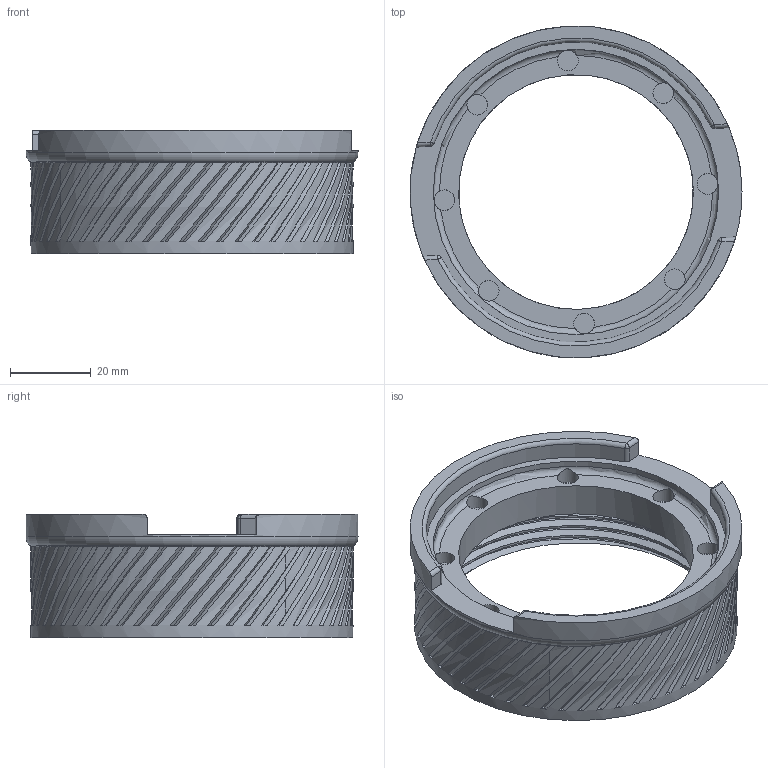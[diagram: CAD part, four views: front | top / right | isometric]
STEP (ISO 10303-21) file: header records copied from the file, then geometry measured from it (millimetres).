
FILE_DESCRIPTION(/* description */ ('STEP AP242','CAx-IF Rec.Pracs.---Representation and Presentation of Product Manufacturing Information (PMI)---4.0---2014-10-13','CAx-IF Rec.Pracs.---3D Tessellated Geometry---0.4---2014-09-14','2;1'),/* implementation_level */ '2;1');
FILE_NAME(/* name */ '64692366cac4670533c20126',/* time_stamp */ '2023-05-20T19:45:43Z',/* author */ (''),/* organization */ (''),/* preprocessor_version */ 'ST-DEVELOPER v19.4',/* originating_system */ ' ',/* authorisation */ ' ');
FILE_SCHEMA (('AP242_MANAGED_MODEL_BASED_3D_ENGINEERING_MIM_LF { 1 0 10303 442 1 1 4 }'));
Length unit declared in the file: metre
Products named in the file (1): Base 22mm Magnet Lug
Bounding box: 82 x 82 x 30.4 mm (x, y, z)
Volume: 41093.3 mm3; surface area: 20794.6 mm2
Topology: 1 solids, 1 shells, 323 faces, 839 edges, 517 vertices
Faces by surface type: bspline 149, plane 136, cylinder 26, torus 4, cone 4, sphere 4
Full cylindrical faces by diameter (mm): 5.1 x8, 58 x1, 70.5 x1, 79.6 x1, 82 x1
Entity records: 16221 total; most frequent: CARTESIAN_POINT 10143, ORIENTED_EDGE 1588, DIRECTION 862, EDGE_CURVE 794, VERTEX_POINT 495, AXIS2_PLACEMENT_3D 395, EDGE_LOOP 341, FACE_BOUND 341
